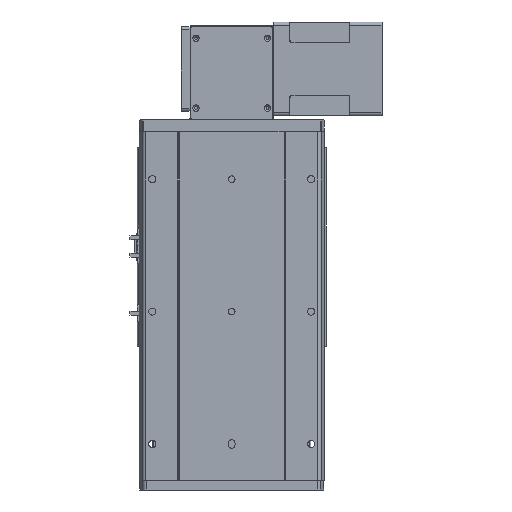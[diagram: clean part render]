
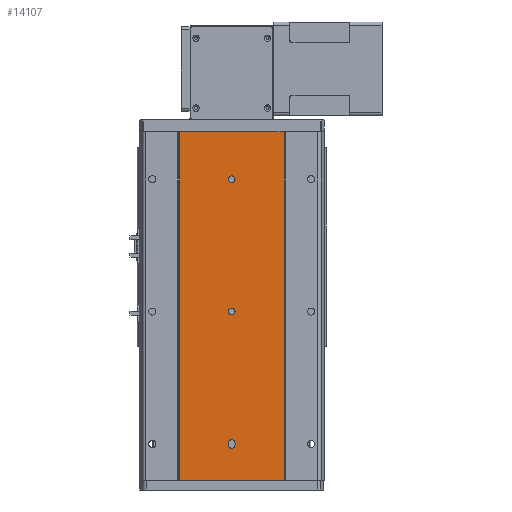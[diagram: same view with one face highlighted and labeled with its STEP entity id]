
A CAD part, front view. The second image highlights one B-rep face of the part: STEP entity #14107.
In plain terms, the highlighted planar face has unit normal (0, -1, 0).
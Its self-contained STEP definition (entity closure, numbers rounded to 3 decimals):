
#102 = ORIENTED_EDGE ( 'NONE', *, *, #25494, .F. ) ;
#353 = DIRECTION ( 'NONE',  ( 1., 0., 0. ) ) ;
#442 = CIRCLE ( 'NONE', #9108, 5. ) ;
#671 = CARTESIAN_POINT ( 'NONE',  ( -79., 1.5, -527. ) ) ;
#894 = CARTESIAN_POINT ( 'NONE',  ( 79., 1.5, 0. ) ) ;
#2205 = VERTEX_POINT ( 'NONE', #14343 ) ;
#2362 = CIRCLE ( 'NONE', #3140, 5. ) ;
#2627 = EDGE_CURVE ( 'NONE', #25187, #19195, #9518, .T. ) ;
#2779 = DIRECTION ( 'NONE',  ( 1., 0., 0. ) ) ;
#3140 = AXIS2_PLACEMENT_3D ( 'NONE', #9050, #17665, #353 ) ;
#3337 = DIRECTION ( 'NONE',  ( 0., 1., 0. ) ) ;
#3546 = DIRECTION ( 'NONE',  ( 0., 1., 0. ) ) ;
#3619 = EDGE_CURVE ( 'NONE', #6902, #15181, #2362, .T. ) ;
#3999 = EDGE_LOOP ( 'NONE', ( #14945, #11950 ) ) ;
#4198 = ORIENTED_EDGE ( 'NONE', *, *, #4550, .F. ) ;
#4230 = LINE ( 'NONE', #24254, #23151 ) ;
#4301 = EDGE_CURVE ( 'NONE', #19195, #2205, #15615, .T. ) ;
#4550 = EDGE_CURVE ( 'NONE', #13919, #15528, #16283, .T. ) ;
#4790 = LINE ( 'NONE', #12754, #15823 ) ;
#5190 = AXIS2_PLACEMENT_3D ( 'NONE', #14432, #5638, #12383 ) ;
#5364 = AXIS2_PLACEMENT_3D ( 'NONE', #17472, #10963, #28238 ) ;
#5638 = DIRECTION ( 'NONE',  ( 0., 1., 0. ) ) ;
#6084 = CARTESIAN_POINT ( 'NONE',  ( -5., 1.5, -473. ) ) ;
#6200 = LINE ( 'NONE', #25160, #23367 ) ;
#6383 = CARTESIAN_POINT ( 'NONE',  ( 0., 1.5, -478. ) ) ;
#6902 = VERTEX_POINT ( 'NONE', #15664 ) ;
#7197 = CARTESIAN_POINT ( 'NONE',  ( -79., 1.5, -527. ) ) ;
#7304 = VECTOR ( 'NONE', #11772, 1000. ) ;
#7389 = CARTESIAN_POINT ( 'NONE',  ( 0., 1.5, -271.5 ) ) ;
#7688 = CIRCLE ( 'NONE', #5190, 5. ) ;
#7775 = CIRCLE ( 'NONE', #21563, 5. ) ;
#8380 = ORIENTED_EDGE ( 'NONE', *, *, #3619, .T. ) ;
#8499 = CARTESIAN_POINT ( 'NONE',  ( -5., 1.5, -470. ) ) ;
#8508 = EDGE_LOOP ( 'NONE', ( #8380, #22935 ) ) ;
#9050 = CARTESIAN_POINT ( 'NONE',  ( 0., 1.5, -71.5 ) ) ;
#9063 = VECTOR ( 'NONE', #2779, 1000. ) ;
#9108 = AXIS2_PLACEMENT_3D ( 'NONE', #18296, #13747, #18196 ) ;
#9518 = LINE ( 'NONE', #23380, #14708 ) ;
#9716 = DIRECTION ( 'NONE',  ( 0., 1., 0. ) ) ;
#9724 = PLANE ( 'NONE',  #20778 ) ;
#9753 = ORIENTED_EDGE ( 'NONE', *, *, #19358, .T. ) ;
#10092 = VERTEX_POINT ( 'NONE', #10701 ) ;
#10111 = DIRECTION ( 'NONE',  ( 0., 0., 1. ) ) ;
#10235 = ORIENTED_EDGE ( 'NONE', *, *, #23536, .T. ) ;
#10496 = EDGE_CURVE ( 'NONE', #10092, #25947, #7775, .T. ) ;
#10701 = CARTESIAN_POINT ( 'NONE',  ( 0., 1.5, -276.5 ) ) ;
#10963 = DIRECTION ( 'NONE',  ( 0., 1., 0. ) ) ;
#11772 = DIRECTION ( 'NONE',  ( 1., 0., 0. ) ) ;
#11820 = EDGE_CURVE ( 'NONE', #13577, #26060, #13192, .T. ) ;
#11950 = ORIENTED_EDGE ( 'NONE', *, *, #24504, .T. ) ;
#12383 = DIRECTION ( 'NONE',  ( 1., 0., 0. ) ) ;
#12665 = EDGE_CURVE ( 'NONE', #2205, #14490, #4230, .T. ) ;
#12754 = CARTESIAN_POINT ( 'NONE',  ( 79., 1.5, -527. ) ) ;
#12755 = CARTESIAN_POINT ( 'NONE',  ( 79., 1.5, -527. ) ) ;
#13121 = FACE_BOUND ( 'NONE', #19292, .T. ) ;
#13192 = LINE ( 'NONE', #671, #7304 ) ;
#13205 = VERTEX_POINT ( 'NONE', #6383 ) ;
#13577 = VERTEX_POINT ( 'NONE', #20681 ) ;
#13747 = DIRECTION ( 'NONE',  ( 0., 1., 0. ) ) ;
#13772 = CARTESIAN_POINT ( 'NONE',  ( -79., 1.5, 0. ) ) ;
#13919 = VERTEX_POINT ( 'NONE', #23924 ) ;
#14107 = ADVANCED_FACE ( 'NONE', ( #24405, #15857, #18221, #13121 ), #9724, .T. ) ;
#14343 = CARTESIAN_POINT ( 'NONE',  ( 5., 1.5, -470. ) ) ;
#14432 = CARTESIAN_POINT ( 'NONE',  ( 0., 1.5, -271.5 ) ) ;
#14490 = VERTEX_POINT ( 'NONE', #26930 ) ;
#14547 = CARTESIAN_POINT ( 'NONE',  ( 0., 1.5, -473. ) ) ;
#14708 = VECTOR ( 'NONE', #16604, 1000. ) ;
#14773 = DIRECTION ( 'NONE',  ( 0., 0., 1. ) ) ;
#14945 = ORIENTED_EDGE ( 'NONE', *, *, #10496, .T. ) ;
#15122 = EDGE_CURVE ( 'NONE', #14490, #13205, #22906, .T. ) ;
#15181 = VERTEX_POINT ( 'NONE', #20942 ) ;
#15528 = VERTEX_POINT ( 'NONE', #894 ) ;
#15615 = CIRCLE ( 'NONE', #5364, 5. ) ;
#15664 = CARTESIAN_POINT ( 'NONE',  ( 0., 1.5, -76.5 ) ) ;
#15823 = VECTOR ( 'NONE', #14773, 1000. ) ;
#15857 = FACE_OUTER_BOUND ( 'NONE', #18899, .T. ) ;
#16283 = LINE ( 'NONE', #13772, #9063 ) ;
#16452 = DIRECTION ( 'NONE',  ( 1., 0., 0. ) ) ;
#16604 = DIRECTION ( 'NONE',  ( 0., 0., 1. ) ) ;
#16727 = DIRECTION ( 'NONE',  ( 1., 0., 0. ) ) ;
#16968 = AXIS2_PLACEMENT_3D ( 'NONE', #14547, #3546, #16452 ) ;
#17472 = CARTESIAN_POINT ( 'NONE',  ( 0., 1.5, -470. ) ) ;
#17665 = DIRECTION ( 'NONE',  ( 0., 1., 0. ) ) ;
#17752 = DIRECTION ( 'NONE',  ( 0., 0., -1. ) ) ;
#18011 = ORIENTED_EDGE ( 'NONE', *, *, #11820, .T. ) ;
#18196 = DIRECTION ( 'NONE',  ( 1., 0., 0. ) ) ;
#18221 = FACE_BOUND ( 'NONE', #3999, .T. ) ;
#18296 = CARTESIAN_POINT ( 'NONE',  ( 0., 1.5, -71.5 ) ) ;
#18543 = DIRECTION ( 'NONE',  ( 0., -1., 0. ) ) ;
#18720 = CARTESIAN_POINT ( 'NONE',  ( 0., 1.5, -473. ) ) ;
#18899 = EDGE_LOOP ( 'NONE', ( #4198, #102, #18011, #10235 ) ) ;
#19015 = ORIENTED_EDGE ( 'NONE', *, *, #15122, .T. ) ;
#19195 = VERTEX_POINT ( 'NONE', #8499 ) ;
#19292 = EDGE_LOOP ( 'NONE', ( #26819, #24154, #27329, #19015, #9753 ) ) ;
#19358 = EDGE_CURVE ( 'NONE', #13205, #25187, #28482, .T. ) ;
#20681 = CARTESIAN_POINT ( 'NONE',  ( -79., 1.5, -527. ) ) ;
#20778 = AXIS2_PLACEMENT_3D ( 'NONE', #7197, #18543, #25057 ) ;
#20942 = CARTESIAN_POINT ( 'NONE',  ( 0., 1.5, -66.5 ) ) ;
#21563 = AXIS2_PLACEMENT_3D ( 'NONE', #7389, #9716, #25050 ) ;
#22885 = CARTESIAN_POINT ( 'NONE',  ( 0., 1.5, -266.5 ) ) ;
#22906 = CIRCLE ( 'NONE', #16968, 5. ) ;
#22935 = ORIENTED_EDGE ( 'NONE', *, *, #24820, .T. ) ;
#23151 = VECTOR ( 'NONE', #17752, 1000. ) ;
#23367 = VECTOR ( 'NONE', #10111, 1000. ) ;
#23380 = CARTESIAN_POINT ( 'NONE',  ( -5., 1.5, -527. ) ) ;
#23536 = EDGE_CURVE ( 'NONE', #26060, #15528, #4790, .T. ) ;
#23924 = CARTESIAN_POINT ( 'NONE',  ( -79., 1.5, 0. ) ) ;
#24154 = ORIENTED_EDGE ( 'NONE', *, *, #4301, .T. ) ;
#24254 = CARTESIAN_POINT ( 'NONE',  ( 5., 1.5, -527. ) ) ;
#24405 = FACE_BOUND ( 'NONE', #8508, .T. ) ;
#24504 = EDGE_CURVE ( 'NONE', #25947, #10092, #7688, .T. ) ;
#24820 = EDGE_CURVE ( 'NONE', #15181, #6902, #442, .T. ) ;
#25050 = DIRECTION ( 'NONE',  ( 1., 0., 0. ) ) ;
#25057 = DIRECTION ( 'NONE',  ( 1., 0., 0. ) ) ;
#25160 = CARTESIAN_POINT ( 'NONE',  ( -79., 1.5, -527. ) ) ;
#25187 = VERTEX_POINT ( 'NONE', #6084 ) ;
#25494 = EDGE_CURVE ( 'NONE', #13577, #13919, #6200, .T. ) ;
#25947 = VERTEX_POINT ( 'NONE', #22885 ) ;
#26060 = VERTEX_POINT ( 'NONE', #12755 ) ;
#26447 = AXIS2_PLACEMENT_3D ( 'NONE', #18720, #3337, #16727 ) ;
#26819 = ORIENTED_EDGE ( 'NONE', *, *, #2627, .T. ) ;
#26930 = CARTESIAN_POINT ( 'NONE',  ( 5., 1.5, -473. ) ) ;
#27329 = ORIENTED_EDGE ( 'NONE', *, *, #12665, .T. ) ;
#28238 = DIRECTION ( 'NONE',  ( 1., 0., 0. ) ) ;
#28482 = CIRCLE ( 'NONE', #26447, 5. ) ;
